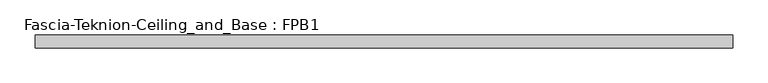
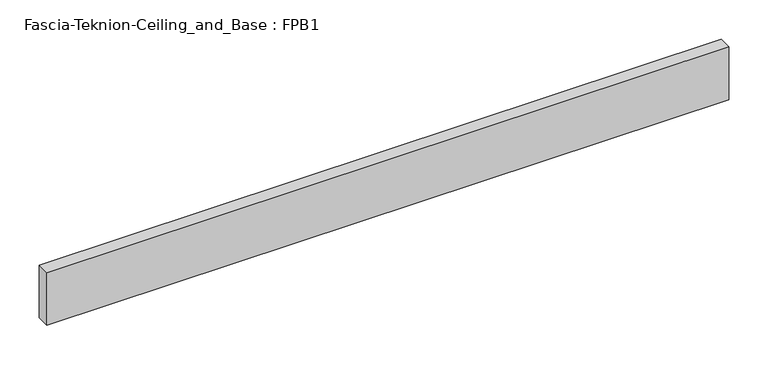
"""IFC4 building model written with IfcOpenShell, lengths in millimetres: proxy geometry, Fascia-Teknion-Ceiling_and_Base : FPB1."""

from ifc_helpers import new_model, si_unit, origin, origin_with_axes, place, context, project, spatial, polyline, outline, extrude, source, transform, mapped, element, save


def fascia_teknion_ceiling_and_base_fpb1_a007a032(model_context):
    return source(origin(), model_context, "Body", "SweptSolid", [
        extrude(outline(polyline([(498.4198344, 0.0), (-498.4198344, 0.0), (-498.4198344, 19.05), (498.4198344, 19.05), (498.4198344, 0.0)])), origin_with_axes(), (0.0, 0.0, 1.0), 81.28),
    ])


if __name__ == "__main__":
    model = new_model("IFC4")
    model_context = context("Model", 3, world=origin())
    ifc_project = project(units=[si_unit("LENGTHUNIT", "METRE", prefix="MILLI")], contexts=[model_context])
    site = spatial("IfcSite", under=ifc_project)
    building = spatial("IfcBuilding", under=site)
    placement = place(None, origin())
    fascia_teknion_ceiling_and_base_fpb1_shape = fascia_teknion_ceiling_and_base_fpb1_a007a032(model_context)
    element("IfcBuildingElementProxy", 1, Name="Fascia-Teknion-Ceiling_and_Base : FPB1", ObjectType="Fascia-Teknion-Ceiling_and_Base : FPB1", at=placement, inside=building, context=model_context, shape_type="MappedRepresentation", body=[
        mapped(fascia_teknion_ceiling_and_base_fpb1_shape, transform((0.0, 0.0, 0.0), x_axis=(1.0, 0.0, 0.0), y_axis=(0.0, 1.0, 0.0), z_axis=(0.0, 0.0, 1.0))),
    ])
    save(model, "model.ifc")
